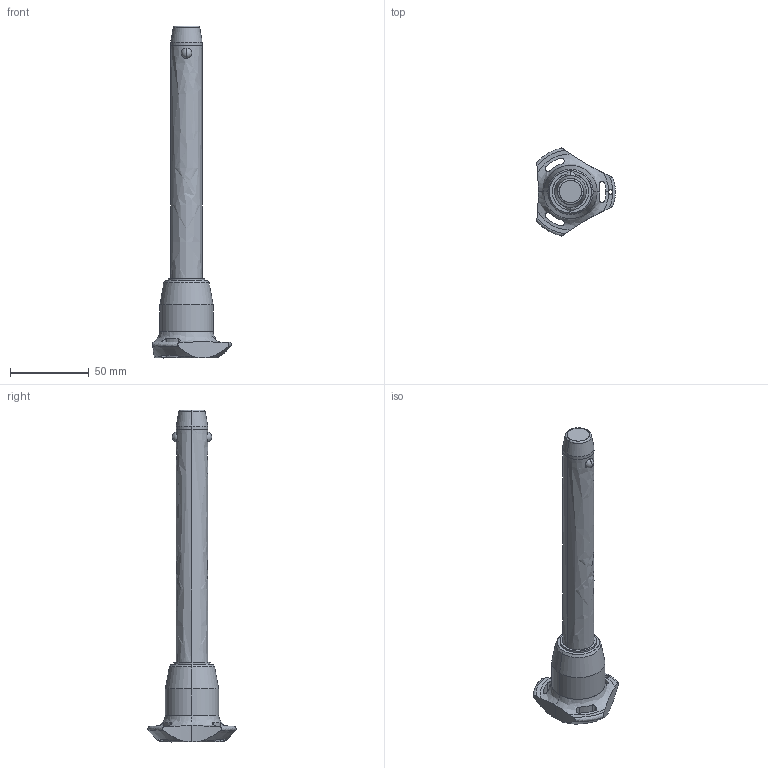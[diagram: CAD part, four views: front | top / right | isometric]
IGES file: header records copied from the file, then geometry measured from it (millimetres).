
Start section: SolidWorks IGES file using analytic representation for surfaces
Global section: file name: C:\Users\ianosborn\Desktop\QR1726_v2\QR1726_v2_20251115_IGES\QR1726.M20-140-T.igs; native system: SolidWorks 2019; preprocessor: SolidWorks 2019; author: IanOsborn; date: 251113.112709; units: millimetre
Bounding box: 50.03 x 56.02 x 211.2 mm (x, y, z)
Surface area: 19764.2 mm2 (no closed solid volume)
Topology: 0 solids, 0 shells, 68 faces, 1382 edges, 1378 vertices
Faces by surface type: revolution 52, bspline 16
